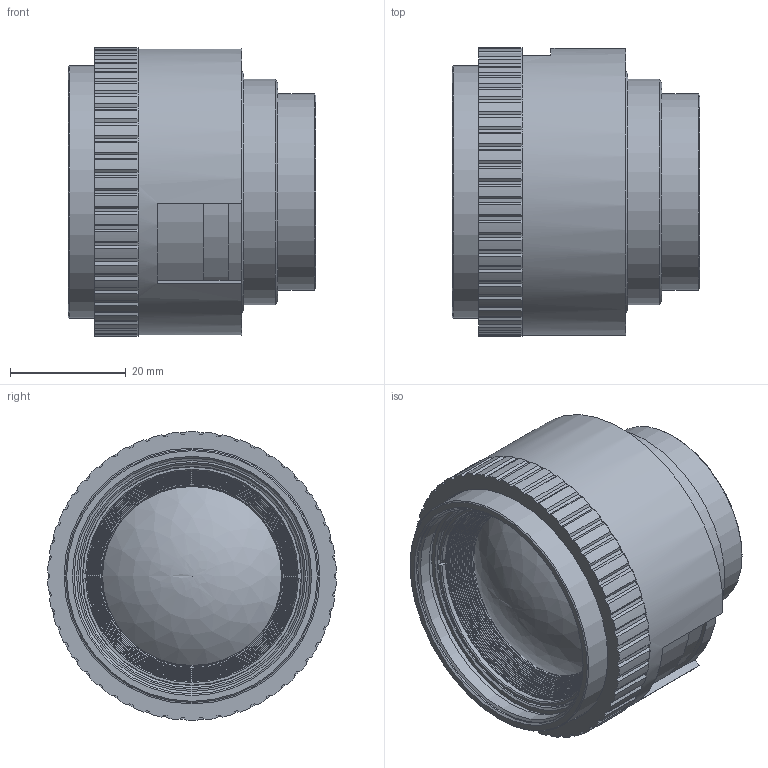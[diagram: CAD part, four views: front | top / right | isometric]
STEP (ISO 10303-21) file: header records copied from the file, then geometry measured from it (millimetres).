
FILE_DESCRIPTION(/* description */ (''),/* implementation_level */ '2;1');
FILE_NAME(/* name */ '0703-101-000-40_c.stp',/* time_stamp */ '2019-10-17T08:51:33+02:00',/* author */ (''),/* organization */ (''),/* preprocessor_version */ 'ST-DEVELOPER v16.7',/* originating_system */ 'SIEMENS PLM Software NX 12.0',/* authorisation */ '');
FILE_SCHEMA (('AUTOMOTIVE_DESIGN { 1 0 10303 214 3 1 1 1 }'));
Length unit declared in the file: millimetre
Products named in the file (1): marc079C9EDBi8vq
Bounding box: 42.9 x 49.98 x 50 mm (x, y, z)
Volume: 57344.5 mm3; surface area: 17194.1 mm2
Topology: 1 solids, 2 shells, 462 faces, 1217 edges, 764 vertices
Faces by surface type: plane 296, cylinder 84, cone 51, torus 28, revolution 3
Full cylindrical faces by diameter (mm): 26 x1, 27.01 x1, 27.859 x1, 28 x1, 29.459 x1, 30.2 x1, 31 x1, 34 x1, 35.6 x1, 36.5 x1, 37.959 x1, 38.7 x1, 39 x1, 39.959 x1, 40.8 x2, 43.8 x1, 44.3 x1, 45.805 x1, 49.7 x1
Entity records: 16484 total; most frequent: DIRECTION 2353, CARTESIAN_POINT 2263, ORIENTED_EDGE 2138, EDGE_CURVE 1069, AXIS2_PLACEMENT_3D 821, VERTEX_POINT 715, LINE 708, VECTOR 708
